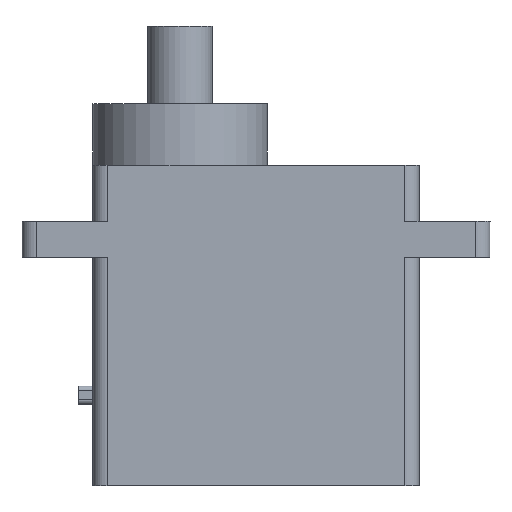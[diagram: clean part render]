
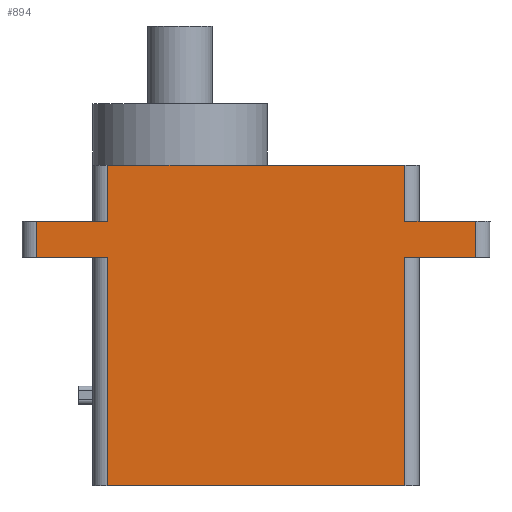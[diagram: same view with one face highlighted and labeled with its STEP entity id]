
A CAD part, left-side view. The second image highlights one B-rep face of the part: STEP entity #894.
In plain terms, the highlighted planar face has unit normal (-1, 0, 0).
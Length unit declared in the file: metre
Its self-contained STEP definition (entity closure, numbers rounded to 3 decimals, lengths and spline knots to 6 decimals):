
#33=PLANE('',#992);
#41=LINE('',#1285,#128);
#43=LINE('',#1291,#130);
#64=LINE('',#1347,#151);
#68=LINE('',#1360,#155);
#71=LINE('',#1369,#158);
#80=LINE('',#1390,#167);
#107=LINE('',#1485,#194);
#108=LINE('',#1493,#195);
#109=LINE('',#1495,#196);
#110=LINE('',#1497,#197);
#111=LINE('',#1498,#198);
#112=LINE('',#1500,#199);
#113=LINE('',#1502,#200);
#128=VECTOR('',#1015,1.);
#130=VECTOR('',#1021,1.);
#151=VECTOR('',#1068,1.);
#155=VECTOR('',#1078,1.);
#158=VECTOR('',#1087,1.);
#167=VECTOR('',#1110,1.);
#194=VECTOR('',#1215,1.);
#195=VECTOR('',#1224,1.);
#196=VECTOR('',#1227,1.);
#197=VECTOR('',#1230,1.);
#198=VECTOR('',#1231,1.);
#199=VECTOR('',#1232,1.);
#200=VECTOR('',#1233,1.);
#404=ORIENTED_EDGE('',*,*,#577,.T.);
#405=ORIENTED_EDGE('',*,*,#474,.T.);
#406=ORIENTED_EDGE('',*,*,#511,.F.);
#407=ORIENTED_EDGE('',*,*,#516,.F.);
#408=ORIENTED_EDGE('',*,*,#527,.F.);
#409=ORIENTED_EDGE('',*,*,#505,.T.);
#410=ORIENTED_EDGE('',*,*,#477,.F.);
#411=ORIENTED_EDGE('',*,*,#578,.F.);
#412=ORIENTED_EDGE('',*,*,#572,.F.);
#413=ORIENTED_EDGE('',*,*,#579,.T.);
#414=ORIENTED_EDGE('',*,*,#580,.T.);
#415=ORIENTED_EDGE('',*,*,#581,.T.);
#416=ORIENTED_EDGE('',*,*,#576,.F.);
#474=EDGE_CURVE('',#604,#603,#41,.T.);
#477=EDGE_CURVE('',#606,#607,#43,.T.);
#505=EDGE_CURVE('',#627,#607,#64,.T.);
#511=EDGE_CURVE('',#633,#603,#68,.T.);
#516=EDGE_CURVE('',#636,#633,#71,.T.);
#527=EDGE_CURVE('',#627,#636,#80,.T.);
#572=EDGE_CURVE('',#670,#671,#107,.T.);
#576=EDGE_CURVE('',#673,#672,#108,.T.);
#577=EDGE_CURVE('',#673,#604,#109,.T.);
#578=EDGE_CURVE('',#671,#606,#110,.T.);
#579=EDGE_CURVE('',#670,#674,#111,.T.);
#580=EDGE_CURVE('',#674,#675,#112,.T.);
#581=EDGE_CURVE('',#675,#672,#113,.T.);
#603=VERTEX_POINT('',#1284);
#604=VERTEX_POINT('',#1286);
#606=VERTEX_POINT('',#1292);
#607=VERTEX_POINT('',#1293);
#627=VERTEX_POINT('',#1346);
#633=VERTEX_POINT('',#1359);
#636=VERTEX_POINT('',#1368);
#670=VERTEX_POINT('',#1484);
#671=VERTEX_POINT('',#1486);
#672=VERTEX_POINT('',#1490);
#673=VERTEX_POINT('',#1492);
#674=VERTEX_POINT('',#1499);
#675=VERTEX_POINT('',#1501);
#772=EDGE_LOOP('',(#404,#405,#406,#407,#408,#409,#410,#411,#412,#413,#414,
#415,#416));
#825=FACE_BOUND('',#772,.T.);
#894=ADVANCED_FACE('',(#825),#33,.T.);
#992=AXIS2_PLACEMENT_3D('',#1496,#1228,#1229);
#1015=DIRECTION('',(0.,0.,1.));
#1021=DIRECTION('',(0.,-1.,0.));
#1068=DIRECTION('',(0.,0.,1.));
#1078=DIRECTION('',(0.,1.,0.));
#1087=DIRECTION('',(0.,0.,-1.));
#1110=DIRECTION('',(0.,-1.,0.));
#1215=DIRECTION('',(0.,0.,1.));
#1224=DIRECTION('',(0.,0.,1.));
#1227=DIRECTION('',(0.,-1.,0.));
#1228=DIRECTION('',(-1.,0.,0.));
#1229=DIRECTION('',(0.,-1.,0.));
#1230=DIRECTION('',(0.,-1.,0.));
#1231=DIRECTION('',(0.,1.,0.));
#1232=DIRECTION('',(0.,0.,-1.));
#1233=DIRECTION('',(0.,-1.,0.));
#1284=CARTESIAN_POINT('',(-0.076277,-0.010559,-0.049731));
#1285=CARTESIAN_POINT('',(-0.076277,-0.010559,-0.065681));
#1286=CARTESIAN_POINT('',(-0.076277,-0.010559,-0.065681));
#1291=CARTESIAN_POINT('',(-0.076277,0.010241,-0.043281));
#1292=CARTESIAN_POINT('',(-0.076277,0.005141,-0.043281));
#1293=CARTESIAN_POINT('',(-0.076277,-0.010559,-0.043281));
#1346=CARTESIAN_POINT('',(-0.076277,-0.010559,-0.047201));
#1347=CARTESIAN_POINT('',(-0.076277,-0.010559,-0.065681));
#1359=CARTESIAN_POINT('',(-0.076277,-0.015509,-0.049731));
#1360=CARTESIAN_POINT('',(-0.076277,-0.011559,-0.049731));
#1368=CARTESIAN_POINT('',(-0.076277,-0.015509,-0.047201));
#1369=CARTESIAN_POINT('',(-0.076277,-0.015509,-0.057074));
#1390=CARTESIAN_POINT('',(-0.076277,-0.011559,-0.047201));
#1484=CARTESIAN_POINT('',(-0.076277,0.010241,-0.047201));
#1485=CARTESIAN_POINT('',(-0.076277,0.010241,-0.065681));
#1486=CARTESIAN_POINT('',(-0.076277,0.010241,-0.043281));
#1490=CARTESIAN_POINT('',(-0.076277,0.010241,-0.049731));
#1492=CARTESIAN_POINT('',(-0.076277,0.010241,-0.065681));
#1493=CARTESIAN_POINT('',(-0.076277,0.010241,-0.065681));
#1495=CARTESIAN_POINT('',(-0.076277,0.010241,-0.065681));
#1496=CARTESIAN_POINT('',(-0.076277,0.010241,-0.065681));
#1497=CARTESIAN_POINT('',(-0.076277,0.010241,-0.043281));
#1498=CARTESIAN_POINT('',(-0.076277,0.011241,-0.047201));
#1499=CARTESIAN_POINT('',(-0.076277,0.015191,-0.047201));
#1500=CARTESIAN_POINT('',(-0.076277,0.015191,-0.057074));
#1501=CARTESIAN_POINT('',(-0.076277,0.015191,-0.049731));
#1502=CARTESIAN_POINT('',(-0.076277,0.011241,-0.049731));
